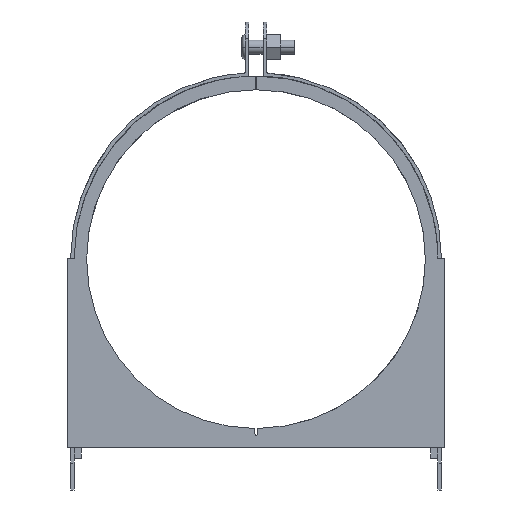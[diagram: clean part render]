
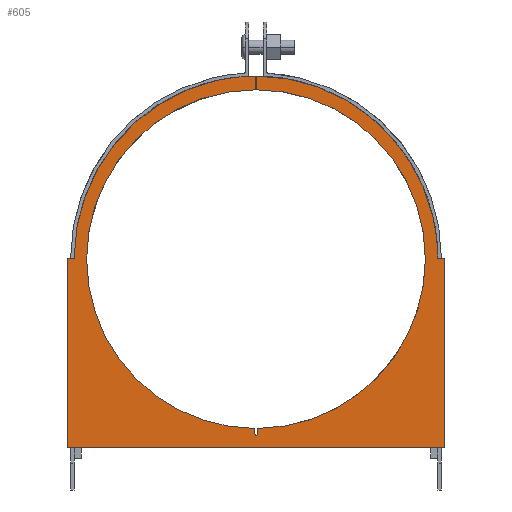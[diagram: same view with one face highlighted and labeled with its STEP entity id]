
A CAD part, front view. The second image highlights one B-rep face of the part: STEP entity #605.
In plain terms, the highlighted planar face has unit normal (0, -1, 0).
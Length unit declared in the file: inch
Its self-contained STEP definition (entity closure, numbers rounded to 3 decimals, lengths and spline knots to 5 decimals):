
#605=ADVANCED_FACE('',(#1412),#1413,.T.);
#1412=FACE_OUTER_BOUND('',#2728,.T.);
#1413=PLANE('',#2729);
#2728=EDGE_LOOP('',(#4359,#4360,#4361,#4362,#4363,#4364,#4365,#4366,#4367,#4368,#4369,#4370,#4371,#4372,#4373,#4374,#4375));
#2729=AXIS2_PLACEMENT_3D('',#4376,#4377,#4378);
#4359=ORIENTED_EDGE('',*,*,#5402,.F.);
#4360=ORIENTED_EDGE('',*,*,#5403,.F.);
#4361=ORIENTED_EDGE('',*,*,#5344,.F.);
#4362=ORIENTED_EDGE('',*,*,#5404,.F.);
#4363=ORIENTED_EDGE('',*,*,#5242,.F.);
#4364=ORIENTED_EDGE('',*,*,#5268,.F.);
#4365=ORIENTED_EDGE('',*,*,#5405,.F.);
#4366=ORIENTED_EDGE('',*,*,#5406,.F.);
#4367=ORIENTED_EDGE('',*,*,#5340,.F.);
#4368=ORIENTED_EDGE('',*,*,#5289,.F.);
#4369=ORIENTED_EDGE('',*,*,#5360,.F.);
#4370=ORIENTED_EDGE('',*,*,#5407,.F.);
#4371=ORIENTED_EDGE('',*,*,#5408,.F.);
#4372=ORIENTED_EDGE('',*,*,#5409,.F.);
#4373=ORIENTED_EDGE('',*,*,#5410,.F.);
#4374=ORIENTED_EDGE('',*,*,#5411,.F.);
#4375=ORIENTED_EDGE('',*,*,#5412,.F.);
#4376=CARTESIAN_POINT('',(3.28499,-0.125,3.8066));
#4377=DIRECTION('',(0.0,-1.0,0.0));
#4378=DIRECTION('',(1.0,0.0,0.0));
#5242=EDGE_CURVE('',#5648,#5649,#5650,.T.);
#5268=EDGE_CURVE('',#5692,#5648,#5693,.T.);
#5289=EDGE_CURVE('',#5723,#5724,#5725,.T.);
#5340=EDGE_CURVE('',#5724,#5800,#5801,.T.);
#5344=EDGE_CURVE('',#5806,#5807,#5808,.T.);
#5360=EDGE_CURVE('',#5829,#5723,#5830,.T.);
#5402=EDGE_CURVE('',#5889,#5890,#5891,.T.);
#5403=EDGE_CURVE('',#5807,#5889,#5892,.T.);
#5404=EDGE_CURVE('',#5649,#5806,#5893,.T.);
#5405=EDGE_CURVE('',#5894,#5692,#5895,.T.);
#5406=EDGE_CURVE('',#5800,#5894,#5896,.T.);
#5407=EDGE_CURVE('',#5897,#5829,#5898,.T.);
#5408=EDGE_CURVE('',#5899,#5897,#5900,.T.);
#5409=EDGE_CURVE('',#5901,#5899,#5902,.T.);
#5410=EDGE_CURVE('',#5903,#5901,#5904,.T.);
#5411=EDGE_CURVE('',#5905,#5903,#5906,.T.);
#5412=EDGE_CURVE('',#5890,#5905,#5907,.T.);
#5648=VERTEX_POINT('',#6219);
#5649=VERTEX_POINT('',#6220);
#5650=B_SPLINE_CURVE_WITH_KNOTS('',3,(#6221,#6222,#6223,#6224),.UNSPECIFIED.,.F.,.F.,(4,4),(0.0,1.0),.UNSPECIFIED.);
#5692=VERTEX_POINT('',#6306);
#5693=LINE('',#6307,#6308);
#5723=VERTEX_POINT('',#6352);
#5724=VERTEX_POINT('',#6353);
#5725=B_SPLINE_CURVE_WITH_KNOTS('',3,(#6354,#6355,#6356,#6357),.UNSPECIFIED.,.F.,.F.,(4,4),(0.0,1.0),.UNSPECIFIED.);
#5800=VERTEX_POINT('',#6511);
#5801=LINE('',#6512,#6513);
#5806=VERTEX_POINT('',#6520);
#5807=VERTEX_POINT('',#6521);
#5808=LINE('',#6522,#6523);
#5829=VERTEX_POINT('',#6552);
#5830=B_SPLINE_CURVE_WITH_KNOTS('',3,(#6553,#6554,#6555,#6556),.UNSPECIFIED.,.F.,.F.,(4,4),(0.0,1.0),.UNSPECIFIED.);
#5889=VERTEX_POINT('',#6695);
#5890=VERTEX_POINT('',#6696);
#5891=LINE('',#6697,#6698);
#5892=B_SPLINE_CURVE_WITH_KNOTS('',3,(#6699,#6700,#6701,#6702),.UNSPECIFIED.,.F.,.F.,(4,4),(0.0,1.0),.UNSPECIFIED.);
#5893=B_SPLINE_CURVE_WITH_KNOTS('',3,(#6703,#6704,#6705,#6706),.UNSPECIFIED.,.F.,.F.,(4,4),(0.0,1.0),.UNSPECIFIED.);
#5894=VERTEX_POINT('',#6707);
#5895=LINE('',#6708,#6709);
#5896=LINE('',#6710,#6711);
#5897=VERTEX_POINT('',#6712);
#5898=LINE('',#6713,#6714);
#5899=VERTEX_POINT('',#6715);
#5900=B_SPLINE_CURVE_WITH_KNOTS('',3,(#6716,#6717,#6718,#6719),.UNSPECIFIED.,.F.,.F.,(4,4),(0.0,1.0),.UNSPECIFIED.);
#5901=VERTEX_POINT('',#6720);
#5902=LINE('',#6721,#6722);
#5903=VERTEX_POINT('',#6723);
#5904=LINE('',#6724,#6725);
#5905=VERTEX_POINT('',#6726);
#5906=LINE('',#6727,#6728);
#5907=LINE('',#6729,#6730);
#6219=CARTESIAN_POINT('',(3.31279,-0.125,1.09004));
#6220=CARTESIAN_POINT('',(6.28495,-0.125,4.0899));
#6221=CARTESIAN_POINT('',(3.31279,-0.125,1.09004));
#6222=CARTESIAN_POINT('',(4.95686,-0.125,1.10495));
#6223=CARTESIAN_POINT('',(6.28495,-0.125,2.44231));
#6224=CARTESIAN_POINT('',(6.28495,-0.125,4.0899));
#6306=CARTESIAN_POINT('',(3.30158,-0.125,0.96261));
#6307=CARTESIAN_POINT('',(3.30158,-0.125,0.96261));
#6308=VECTOR('',#7121,1.);
#6352=CARTESIAN_POINT('',(0.28495,-0.125,4.0899));
#6353=CARTESIAN_POINT('',(3.25595,-0.125,1.09005));
#6354=CARTESIAN_POINT('',(0.28495,-0.125,4.0899));
#6355=CARTESIAN_POINT('',(0.28495,-0.125,2.44275));
#6356=CARTESIAN_POINT('',(1.61248,-0.125,1.10564));
#6357=CARTESIAN_POINT('',(3.25595,-0.125,1.09005));
#6511=CARTESIAN_POINT('',(3.27026,-0.125,0.96261));
#6512=CARTESIAN_POINT('',(3.25595,-0.125,1.09005));
#6513=VECTOR('',#7155,1.0);
#6520=CARTESIAN_POINT('',(3.29077,-0.125,7.08979));
#6521=CARTESIAN_POINT('',(3.29057,-0.125,7.33206));
#6522=CARTESIAN_POINT('',(3.29077,-0.125,7.08979));
#6523=VECTOR('',#7158,1.0);
#6552=CARTESIAN_POINT('',(3.27936,-0.125,7.0898));
#6553=CARTESIAN_POINT('',(3.27936,-0.125,7.0898));
#6554=CARTESIAN_POINT('',(1.6251,-0.125,7.08674));
#6555=CARTESIAN_POINT('',(0.28495,-0.125,5.74487));
#6556=CARTESIAN_POINT('',(0.28495,-0.125,4.0899));
#6695=CARTESIAN_POINT('',(6.50722,-0.125,4.10751));
#6696=CARTESIAN_POINT('',(6.63232,-0.125,4.10754));
#6697=CARTESIAN_POINT('',(6.50722,-0.125,4.10751));
#6698=VECTOR('',#7187,1.0);
#6699=CARTESIAN_POINT('',(3.29057,-0.125,7.33206));
#6700=CARTESIAN_POINT('',(5.06182,-0.125,7.32926));
#6701=CARTESIAN_POINT('',(6.4978,-0.125,5.8773));
#6702=CARTESIAN_POINT('',(6.50722,-0.125,4.10751));
#6703=CARTESIAN_POINT('',(6.28495,-0.125,4.0899));
#6704=CARTESIAN_POINT('',(6.28495,-0.125,5.7448));
#6705=CARTESIAN_POINT('',(4.94493,-0.125,7.08663));
#6706=CARTESIAN_POINT('',(3.29077,-0.125,7.08979));
#6707=CARTESIAN_POINT('',(3.28515,-0.125,0.95814));
#6708=CARTESIAN_POINT('',(3.28515,-0.125,0.95814));
#6709=VECTOR('',#7188,1.0);
#6710=CARTESIAN_POINT('',(3.27026,-0.125,0.96261));
#6711=VECTOR('',#7189,1.0);
#6712=CARTESIAN_POINT('',(3.2792,-0.125,7.33206));
#6713=CARTESIAN_POINT('',(3.2792,-0.125,7.33206));
#6714=VECTOR('',#7190,1.0);
#6715=CARTESIAN_POINT('',(0.06306,-0.125,4.10751));
#6716=CARTESIAN_POINT('',(0.06306,-0.125,4.10751));
#6717=CARTESIAN_POINT('',(0.07247,-0.125,5.87699));
#6718=CARTESIAN_POINT('',(1.50841,-0.125,7.32873));
#6719=CARTESIAN_POINT('',(3.2792,-0.125,7.33206));
#6720=CARTESIAN_POINT('',(-0.06242,-0.125,4.10754));
#6721=CARTESIAN_POINT('',(-0.06242,-0.125,4.10754));
#6722=VECTOR('',#7191,1.0);
#6723=CARTESIAN_POINT('',(-0.06242,-0.125,0.75));
#6724=CARTESIAN_POINT('',(-0.06242,-0.125,0.75));
#6725=VECTOR('',#7192,1.0);
#6726=CARTESIAN_POINT('',(6.63232,-0.125,0.75));
#6727=CARTESIAN_POINT('',(6.63232,-0.125,0.75));
#6728=VECTOR('',#7193,1.0);
#6729=CARTESIAN_POINT('',(6.63232,-0.125,4.10754));
#6730=VECTOR('',#7194,1.0);
#7121=DIRECTION('',(0.088,0.0,0.996));
#7155=DIRECTION('',(0.112,0.0,-0.994));
#7158=DIRECTION('',(-0.001,0.0,1.));
#7187=DIRECTION('',(1.,0.0,0.));
#7188=DIRECTION('',(0.965,0.0,0.262));
#7189=DIRECTION('',(0.958,0.0,-0.287));
#7190=DIRECTION('',(0.001,0.0,-1.));
#7191=DIRECTION('',(1.,0.0,0.));
#7192=DIRECTION('',(0.0,0.0,1.0));
#7193=DIRECTION('',(-1.0,0.0,0.0));
#7194=DIRECTION('',(0.0,0.0,-1.0));
